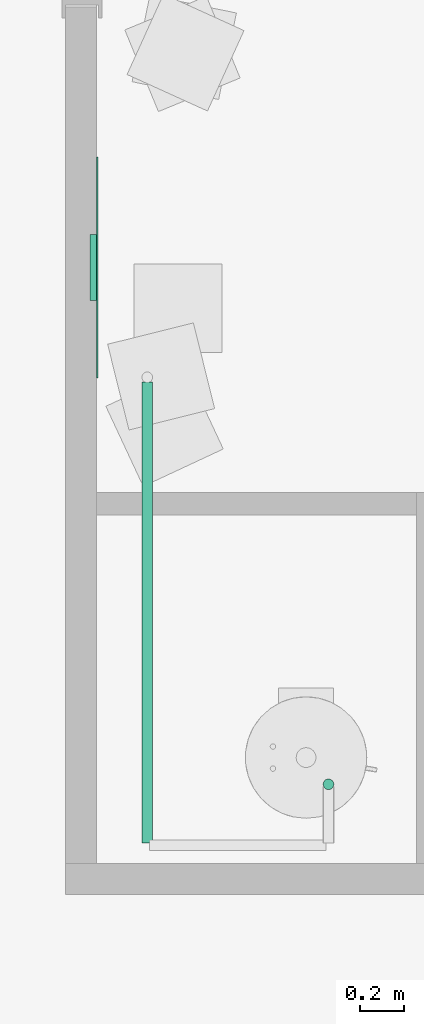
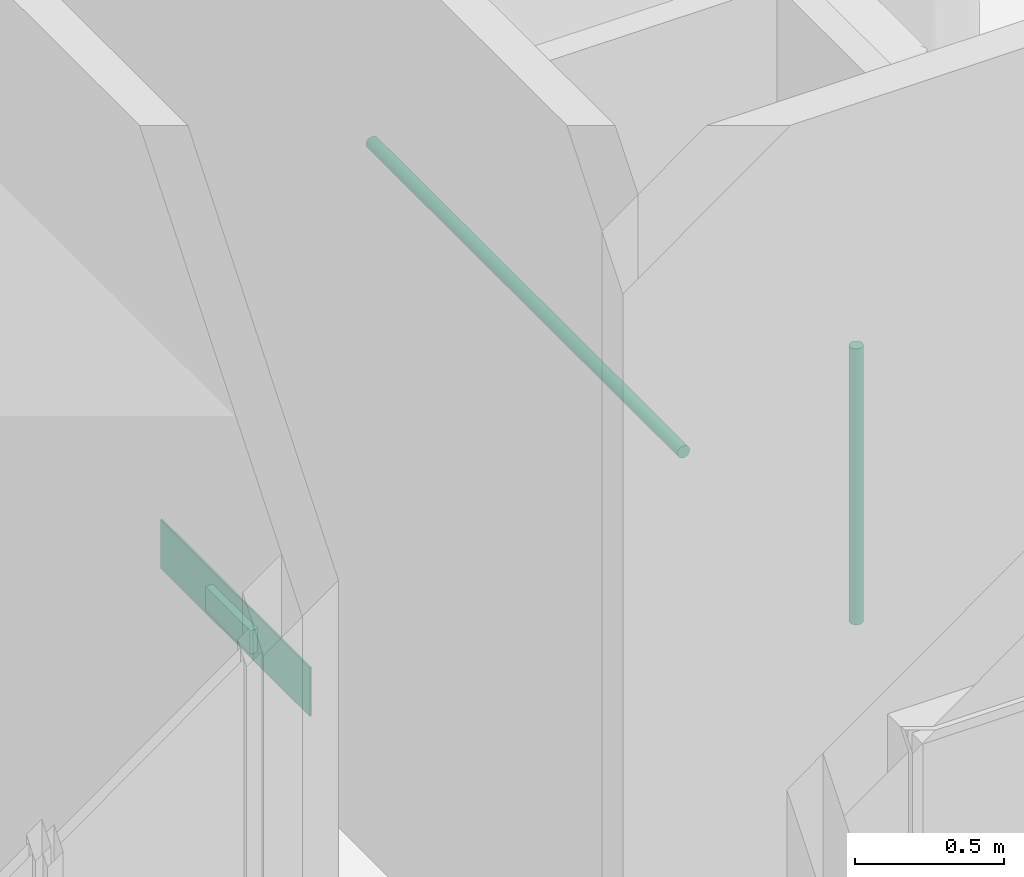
# One storey, part 34 of 72: 2 pipe segments, 1 air terminal.
"""IFC4 building model written with IfcOpenShell, lengths in centimetres."""

from ifc_helpers import new_model, entity, si_unit, converted_unit, derived_unit, direction, frame, origin, place, context, subcontext, project, spatial, arc, indexed_curve, outline, extrude, source, transform, mapped, material, constituent, constituent_set, type_object, type_shapes, element, save


model = new_model("IFC4")

# Units and contexts
model_context = context("Model", 3, precision=0.001, world=origin(), true_north=direction((6.123233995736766e-17, 1.0)))
body_context = subcontext(model_context, "Body", "Model", "MODEL_VIEW")
ifc_project = project(units=[si_unit("LENGTHUNIT", "METRE", prefix="CENTI"), si_unit("AREAUNIT", "SQUARE_METRE"), si_unit("VOLUMEUNIT", "CUBIC_METRE"), derived_unit("THERMALTRANSMITTANCEUNIT", [(si_unit("MASSUNIT", "GRAM", prefix="KILO"), 1), (si_unit("THERMODYNAMICTEMPERATUREUNIT", "KELVIN"), -1), (si_unit("TIMEUNIT", "SECOND"), -3)]), converted_unit("PLANEANGLEUNIT", "DEGREE", entity("IfcPlaneAngleMeasure", 0.017453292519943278), si_unit("PLANEANGLEUNIT", "RADIAN"), dimensions=[0, 0, 0, 0, 0, 0, 0]), derived_unit("MASSDENSITYUNIT", [(si_unit("MASSUNIT", "GRAM", prefix="KILO"), 1), (si_unit("LENGTHUNIT", "METRE"), -3)]), derived_unit("VAPORPERMEABILITYUNIT", [(si_unit("LENGTHUNIT", "METRE"), -1), (si_unit("TIMEUNIT", "SECOND"), 1)]), derived_unit("USERDEFINED", [(si_unit("MASSUNIT", "GRAM", prefix="KILO"), 1), (si_unit("TIMEUNIT", "SECOND"), -3), (si_unit("LENGTHUNIT", "METRE"), 3), (si_unit("ELECTRICCURRENTUNIT", "AMPERE"), -2)]), derived_unit("SPECIFICHEATCAPACITYUNIT", [(si_unit("THERMODYNAMICTEMPERATUREUNIT", "KELVIN"), -1), (si_unit("LENGTHUNIT", "METRE"), 2), (si_unit("TIMEUNIT", "SECOND"), -2)]), derived_unit("THERMALCONDUCTANCEUNIT", [(si_unit("MASSUNIT", "GRAM", prefix="KILO"), 1), (si_unit("THERMODYNAMICTEMPERATUREUNIT", "KELVIN"), -1), (si_unit("TIMEUNIT", "SECOND"), -3), (si_unit("LENGTHUNIT", "METRE"), 1)]), si_unit("PRESSUREUNIT", "PASCAL"), derived_unit("MODULUSOFELASTICITYUNIT", [(si_unit("MASSUNIT", "GRAM", prefix="KILO"), 1), (si_unit("LENGTHUNIT", "METRE"), -1), (si_unit("TIMEUNIT", "SECOND"), -2)]), derived_unit("THERMALEXPANSIONCOEFFICIENTUNIT", [(si_unit("THERMODYNAMICTEMPERATUREUNIT", "KELVIN"), -1)])], contexts=[model_context])

# Site, building, storey, space
site_placement = place(None, origin())
site = spatial("IfcSite", under=ifc_project, at=site_placement, Name="Default", CompositionType="ELEMENT")
building_placement = place(site_placement, origin())
building = spatial("IfcBuilding", under=site, at=building_placement, Name="IDS Escape Game Building", CompositionType="ELEMENT")
storey_placement = place(building_placement, frame((0.0, 0.0, 800.0)))
storey = spatial("IfcBuildingStorey", under=building, at=storey_placement, Name="02_Second Floor", CompositionType="ELEMENT", Elevation=800.0)
space_placement = place(storey_placement, origin())
space = spatial("IfcSpace", under=storey, at=space_placement, Name="102", CompositionType="ELEMENT", PredefinedType="NOTDEFINED")

# Air terminal
ifc_material_1 = material(Name="TB_LVC_referentievlak_00_gen_BERSnl", Category="BE Default")
ifc_constituent_1 = constituent(ifc_material_1, Name="TB_LVC_referentievlak_00_gen_BERSnl", Category="BE Default", fraction=0.00014157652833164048)
ifc_material_2 = material(Name="ARC_FME.h2_staal_00_gen_BERSnl", Category="h - metaal")
ifc_constituent_2 = constituent(ifc_material_2, Name="ARC_FME.h2_staal_00_gen_BERSnl", Category="h - metaal", fraction=0.9998584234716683)
ifc_constituent_set_1 = constituent_set(constituents=[ifc_constituent_1, ifc_constituent_2])
ifc_constituent_3 = constituent(ifc_material_1, Name="BE Referentievlak", Category="BE Default", fraction=0.00014157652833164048)
ifc_constituent_4 = constituent(ifc_material_2, Name="Terminals", Category="h - metaal", fraction=0.9998584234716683)
ifc_constituent_set_2 = constituent_set(constituents=[ifc_constituent_3, ifc_constituent_4])
air_terminal_type = type_object("IfcAirTerminalType", Name="TB_57_AIR_FB_aanzuigrooster - 1 rechthoekige aansluiting - calculated flow_gen_BERSnl:Air Terminal - Exhaust", PredefinedType="GRILLE", material=ifc_constituent_set_2)
shared_shape = source(origin(), body_context, "Body", "SweptSolid", [
    extrude(outline(indexed_curve([(-0.5, -2.0290176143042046e-15), (6.8507733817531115e-16, -0.5000000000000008), (0.5, 2.0290176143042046e-15), (-5.361679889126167e-16, 0.49999999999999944)], segments=[arc(1, 2, 3), arc(3, 4, 1)], self_intersect=False)), frame((0.0, 0.0, 0.0), z_axis=(1.7453292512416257e-05, 0.0, 1.0), x_axis=(0.0, 1.0, 0.0)), (0.0, 0.0, 1.0), 0.09999999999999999),
    extrude(outline(indexed_curve([(-14.900000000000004, -4.9), (14.900000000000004, -4.9), (14.900000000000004, 4.9), (-14.900000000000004, 4.9), (-14.900000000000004, -4.9)], self_intersect=False)), frame((-4.886921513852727e-05, 0.0, -2.7999999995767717)), (0.0, 0.0, 1.0), 2.7999999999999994),
    extrude(outline(indexed_curve([(-50.0, -10.0), (50.0, -10.0), (50.0, 10.0), (-50.0, 10.0), (-50.0, -10.0)], self_intersect=False)), frame((0.0, 0.0, 0.0), z_axis=(0.0, 0.0, 1.0), x_axis=(-1.0, 0.0, 0.0)), (0.0, 0.0, 1.0), 0.6999999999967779),
])
type_shapes(air_terminal_type, [shared_shape])
air_terminal_placement = place(space_placement, frame((2221.0, 2835.0, 24.0), z_axis=(1.0, 0.0, 0.0), x_axis=(0.0, 1.0, 0.0)))
element("IfcAirTerminal", 1, at=air_terminal_placement, inside=space, type_object=air_terminal_type, material=ifc_constituent_set_1, Name="TB_57_AIR_FB_aanzuigrooster - 1 rechthoekige aansluiting - calculated flow_gen_BERSnl:Air Terminal - Exhaust", ObjectType="TB_57_AIR_FB_aanzuigrooster - 1 rechthoekige aansluiting - calculated flow_gen_BERSnl:Air Terminal - Exhaust", PredefinedType="GRILLE", context=body_context, shape_type="MappedRepresentation", body=[
    mapped(shared_shape, transform((0.0, 0.0, 0.0), scale=1.0)),
])

# Pipe segments
pipe_segment_type = type_object("IfcPipeSegmentType", Name="Pipe Types:Piping Aluminum", PredefinedType="NOTDEFINED")
pipe_segment_1_placement = place(storey_placement, origin())
element("IfcPipeSegment", 2, at=pipe_segment_1_placement, inside=storey, type_object=pipe_segment_type, Name="Pipe Types:Piping Aluminum", ObjectType="Pipe Types:Piping Aluminum", PredefinedType="NOTDEFINED", context=body_context, shape_type="SweptSolid", body=[
    extrude(outline(indexed_curve([(2.412999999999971, 0.0), (1.7062486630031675, 1.7062486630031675), (0.0, 2.412999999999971), (-1.7062486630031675, 1.7062486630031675), (-2.412999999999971, 0.0), (-1.7062486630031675, -1.7062486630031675), (0.0, -2.412999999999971), (1.7062486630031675, -1.7062486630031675)], segments=[arc(1, 2, 3), arc(3, 4, 5), arc(5, 6, 7), arc(7, 8, 1)], self_intersect=False)), frame((2326.150000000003, 2600.900000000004, 128.0), z_axis=(0.0, 0.0, 1.0), x_axis=(-1.0, 0.0, 0.0)), (0.0, 0.0, 1.0), 112.90000000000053),
])
pipe_segment_2_placement = place(storey_placement, origin())
element("IfcPipeSegment", 3, at=pipe_segment_2_placement, inside=storey, type_object=pipe_segment_type, Name="Pipe Types:Piping Aluminum", ObjectType="Pipe Types:Piping Aluminum", PredefinedType="NOTDEFINED", context=body_context, shape_type="SweptSolid", body=[
    extrude(outline(indexed_curve([(2.412999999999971, 0.0), (1.7062486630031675, 1.7062486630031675), (0.0, 2.412999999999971), (-1.7062486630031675, 1.7062486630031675), (-2.412999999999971, 0.0), (-1.7062486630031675, -1.7062486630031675), (0.0, -2.412999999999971), (1.7062486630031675, -1.7062486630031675)], segments=[arc(1, 2, 3), arc(3, 4, 5), arc(5, 6, 7), arc(7, 8, 1)], self_intersect=False)), frame((2244.0467168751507, 2574.364827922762, 242.0), z_axis=(0.0, 1.0, 0.0), x_axis=(1.0, 0.0, 0.0)), (0.0, 0.0, 1.0), 208.80000000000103),
])

save(model, "model.ifc")
